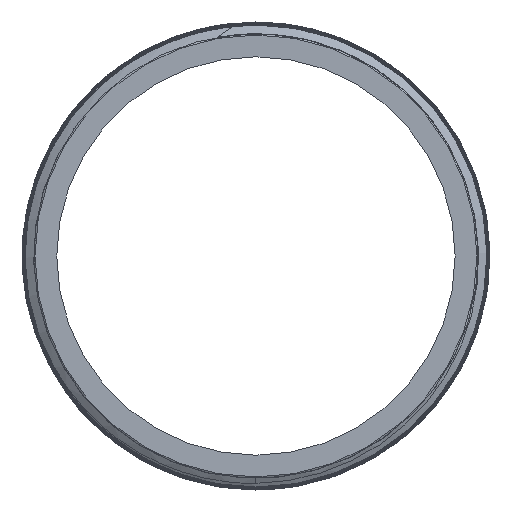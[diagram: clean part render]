
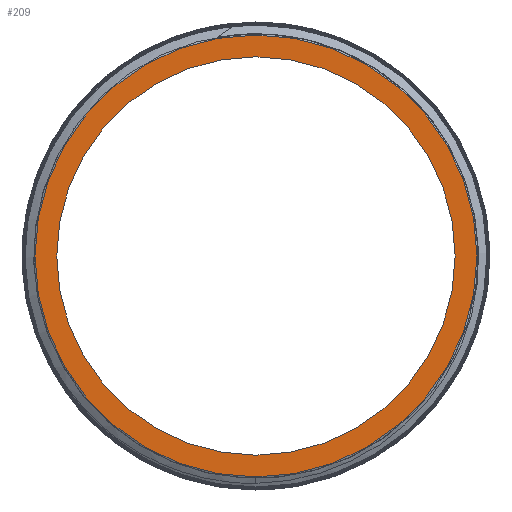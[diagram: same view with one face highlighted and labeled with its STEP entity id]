
A CAD part, left-side view. The second image highlights one B-rep face of the part: STEP entity #209.
In plain terms, the highlighted planar face has unit normal (-1, 0, 0).
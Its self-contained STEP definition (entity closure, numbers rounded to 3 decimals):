
#81 = DIRECTION ( 'NONE',  ( 0., 0., -1. ) ) ;
#209 = ADVANCED_FACE ( 'NONE', ( #1540, #10523 ), #1642, .F. ) ;
#402 = EDGE_CURVE ( 'NONE', #6762, #6835, #9739, .T. ) ;
#692 = VERTEX_POINT ( 'NONE', #5167 ) ;
#1441 = EDGE_CURVE ( 'NONE', #3819, #692, #6979, .T. ) ;
#1519 = CARTESIAN_POINT ( 'NONE',  ( -250., 0., 0. ) ) ;
#1540 = FACE_BOUND ( 'NONE', #4238, .T. ) ;
#1642 = PLANE ( 'NONE',  #3904 ) ;
#1661 = DIRECTION ( 'NONE',  ( 0., 0., 1. ) ) ;
#1823 = CARTESIAN_POINT ( 'NONE',  ( -250., 0., 11.45 ) ) ;
#1908 = DIRECTION ( 'NONE',  ( -1., 0., 0. ) ) ;
#2157 = AXIS2_PLACEMENT_3D ( 'NONE', #10476, #3871, #5434 ) ;
#2278 = ORIENTED_EDGE ( 'NONE', *, *, #1441, .T. ) ;
#2456 = CARTESIAN_POINT ( 'NONE',  ( -250., 11.45, 0. ) ) ;
#2484 = ORIENTED_EDGE ( 'NONE', *, *, #4796, .F. ) ;
#2563 = CARTESIAN_POINT ( 'NONE',  ( -250., 0., 12.7 ) ) ;
#3231 = EDGE_CURVE ( 'NONE', #692, #3819, #10567, .T. ) ;
#3371 = ORIENTED_EDGE ( 'NONE', *, *, #3231, .T. ) ;
#3819 = VERTEX_POINT ( 'NONE', #2563 ) ;
#3871 = DIRECTION ( 'NONE',  ( -1., 0., 0. ) ) ;
#3904 = AXIS2_PLACEMENT_3D ( 'NONE', #2456, #8201, #81 ) ;
#4238 = EDGE_LOOP ( 'NONE', ( #6524, #2484 ) ) ;
#4412 = CARTESIAN_POINT ( 'NONE',  ( -250., 0., -11.45 ) ) ;
#4796 = EDGE_CURVE ( 'NONE', #6835, #6762, #5780, .T. ) ;
#5146 = CARTESIAN_POINT ( 'NONE',  ( -250., 0., 0. ) ) ;
#5167 = CARTESIAN_POINT ( 'NONE',  ( -250., 0., -12.7 ) ) ;
#5434 = DIRECTION ( 'NONE',  ( 0., 0., 1. ) ) ;
#5493 = EDGE_LOOP ( 'NONE', ( #3371, #2278 ) ) ;
#5780 = CIRCLE ( 'NONE', #2157, 11.45 ) ;
#6107 = AXIS2_PLACEMENT_3D ( 'NONE', #1519, #6312, #10612 ) ;
#6312 = DIRECTION ( 'NONE',  ( -1., 0., 0. ) ) ;
#6514 = CARTESIAN_POINT ( 'NONE',  ( -250., 0., 0. ) ) ;
#6524 = ORIENTED_EDGE ( 'NONE', *, *, #402, .F. ) ;
#6762 = VERTEX_POINT ( 'NONE', #1823 ) ;
#6835 = VERTEX_POINT ( 'NONE', #4412 ) ;
#6979 = CIRCLE ( 'NONE', #10236, 12.7 ) ;
#8201 = DIRECTION ( 'NONE',  ( 1., 0., 0. ) ) ;
#8219 = DIRECTION ( 'NONE',  ( -1., 0., 0. ) ) ;
#8408 = DIRECTION ( 'NONE',  ( 0., 0., 1. ) ) ;
#9739 = CIRCLE ( 'NONE', #9903, 11.45 ) ;
#9903 = AXIS2_PLACEMENT_3D ( 'NONE', #5146, #1908, #8408 ) ;
#10236 = AXIS2_PLACEMENT_3D ( 'NONE', #6514, #8219, #1661 ) ;
#10476 = CARTESIAN_POINT ( 'NONE',  ( -250., 0., 0. ) ) ;
#10523 = FACE_OUTER_BOUND ( 'NONE', #5493, .T. ) ;
#10567 = CIRCLE ( 'NONE', #6107, 12.7 ) ;
#10612 = DIRECTION ( 'NONE',  ( 0., 0., 1. ) ) ;
